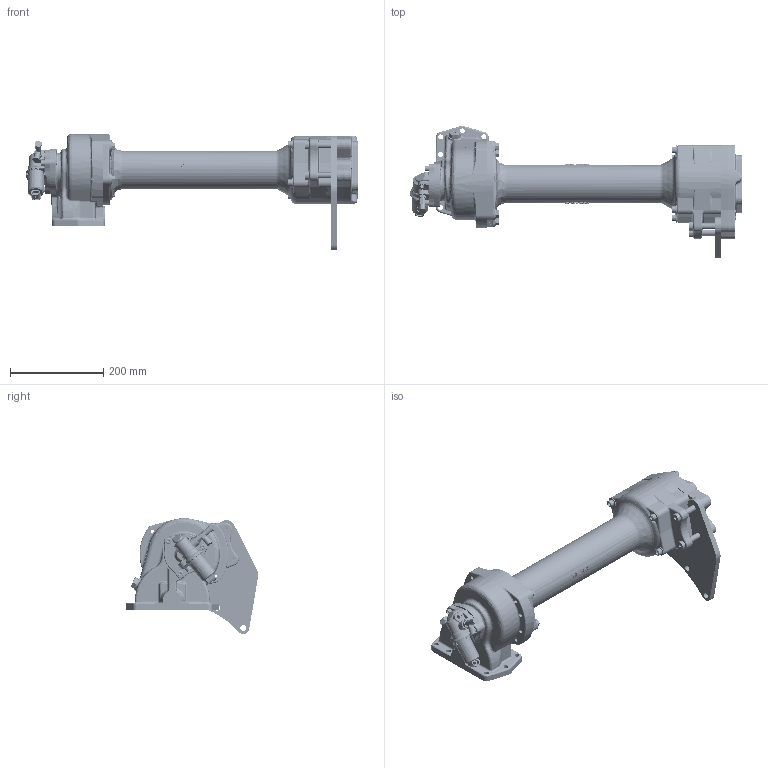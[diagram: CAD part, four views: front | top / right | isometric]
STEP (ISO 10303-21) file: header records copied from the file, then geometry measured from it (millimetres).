
FILE_DESCRIPTION((''),'2;1');
FILE_NAME('C:\Documents and Settings\vca7782\Desktop\890U-B5XY.stp','2013-07-22T08:35:45',('vca7724'),(''),'Autodesk Inventor 2013','Autodesk Inventor 2013','');
FILE_SCHEMA(('AUTOMOTIVE_DESIGN { 1 0 10303 214 1 1 1 1 }'));
Length unit declared in the file: inch
Products named in the file (54): 890U-B5XY; 1-P-629; 54-P-22; 329607X.iam (Nopart parts supressed); 3-P-1007; 380070; 28-P-285_compressed; 380051; 380110X; 380110; 500566-7; 28-P-178_compressed; 329678X; 2-P-858; 379485; 380065; 37-P-62 compressed-0; 561028; 380069; 379231; 329609-4X; 21-P-725; 2-P-876; 378263; 550311; 379555; 28-P-267; 329463-12X.iam (~1); 34-P-143; 378811; 378849; 28-P-119; 378447-4; 380012; 500897-5; 28-P-245_compressed; 22-P-112; 379242; 378447-6; 560972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
Assembly tree (96 placements, depth 4):
  890U-B5XY
    1-P-629
    54-P-22
    329607X.iam (Nopart parts supressed)
      3-P-1007
      380070
      28-P-285_compressed  x2
      380051
      380110X
        380110
        500566-7
      28-P-178_compressed
      329678X
        2-P-858
        379485  x11
        380065  x10
      37-P-62 compressed-0
      561028
      380069
      379231
    329609-4X
      21-P-725
      2-P-876
      378263
      550311
      379555
      28-P-267
      379231  x2
    329463-12X.iam (~1)
      34-P-143
      378811
      378849
      28-P-119
      378447-4
      380012
      500897-5
    28-P-245_compressed  x2
    22-P-112
    379242
    379231
    378447-6  x3
    560972
    28-P-42
    378452-7
    550026
    379668
    68-P-51
    378422  x2
    500897-5
    378431-13  x4
    379433-18  x4
    380076-07  x8
    379659
    379564-2  x2
    380071  x2
    380123
    50-P-73
Bounding box: 712.16 x 284.26 x 248.59 mm (x, y, z)
Volume: 5846071.1 mm3; surface area: 1487837.4 mm2
Topology: 92 solids, 93 shells, 22098 faces, 59385 edges, 37810 vertices
Faces by surface type: cylinder 8447, plane 7250, torus 2892, bspline 2814, cone 612, sphere 78, revolution 5
Full cylindrical faces by diameter (mm): 0.66 x1, 0.8 x1, 1.473 x2, 1.6 x1, 1.969 x2, 1.981 x3, 2.184 x2, 2.388 x1, 2.464 x2, 2.54 x2, 2.769 x2, 2.858 x2, 3.175 x15, 3.811 x24, 3.962 x1, 4.369 x2, 4.699 x3, 4.75 x1, 4.978 x1, 6.35 x2, 6.401 x3, 6.756 x1, 7.62 x1, 7.798 x14, 7.836 x3, 7.925 x4, 7.938 x1, 7.95 x4, 8.331 x1, 8.382 x1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
Entity records: 461999 total; most frequent: CARTESIAN_POINT 187174, ORIENTED_EDGE 58804, DIRECTION 50308, EDGE_CURVE 29402, VERTEX_POINT 18794, AXIS2_PLACEMENT_3D 17903, VECTOR 14499, LINE 14499
